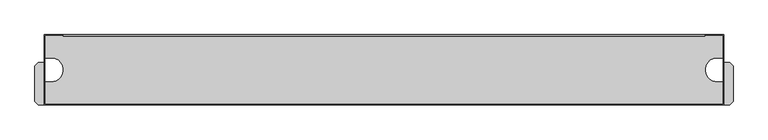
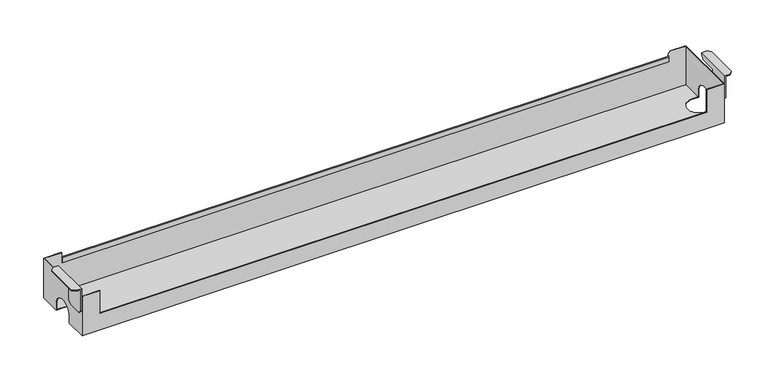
"""IFC4 building model written with IfcOpenShell, lengths in millimetres: furniture geometry, FREZZA_POP AD_Cable tray_for Desk : W1400 mm Structure_ZGBI - Embossed White."""

from ifc_helpers import new_model, si_unit, frame, origin, place, context, project, spatial, polyline, circle_curve, faceted_brep, source, transform, mapped, element, save
from ifc_brep_helpers import plane_surface, cylinder_surface, revolved_surface, advanced_brep


def furniture_406bb710(model_context):
    return source(origin(), model_context, "Body", "SolidModel", [
        faceted_brep([(228.0710678, -203.5, 725.0), (239.0, -203.5, 725.0), (239.0, -115.5, 725.0), (228.0710678, -115.5, 725.0), (221.0, -122.5710678, 725.0), (221.0, -196.4289322, 725.0), (228.0710678, -203.5, 723.0), (221.0, -196.4289322, 723.0), (221.0, -122.5710678, 723.0), (228.0710678, -115.5, 723.0), (237.0, -115.5, 723.0), (237.0, -203.5, 723.0), (237.0, -203.5, 674.0710678), (239.0, -203.5, 674.0710678), (239.0, -115.5, 720.0710678), (237.0, -115.5, 720.0710678), (239.0, -196.4289322, 667.0), (239.0, -165.5710678, 667.0), (239.0, -158.5, 674.0710678), (239.0, -158.5, 713.0), (239.0, -122.5710678, 713.0), (237.0, -165.5710678, 667.0), (237.0, -196.4289322, 667.0), (237.0, -122.5710678, 713.0), (237.0, -158.5, 713.0), (237.0, -158.5, 674.0710678)], [[[0, 1, 2, 3, 4, 5]], [[6, 7, 8, 9, 10, 11]], [[0, 6, 11, 12, 13, 1]], [[0, 5, 7, 6]], [[5, 4, 8, 7]], [[4, 3, 9, 8]], [[9, 3, 2, 14, 15, 10]], [[14, 2, 1, 13, 16, 17, 18, 19, 20]], [[21, 22, 12, 11, 10, 15, 23, 24, 25]], [[17, 16, 22, 21]], [[16, 13, 12, 22]], [[14, 20, 23, 15]], [[20, 19, 24, 23]], [[19, 18, 25, 24]], [[18, 17, 21, 25]]]),
        faceted_brep([(1641.0, -203.5, 725.0), (1651.9289322, -203.5, 725.0), (1659.0, -196.4289322, 725.0), (1659.0, -122.5710678, 725.0), (1651.9289322, -115.5, 725.0), (1641.0, -115.5, 725.0), (1651.9289322, -115.5, 723.0), (1659.0, -122.5710678, 723.0), (1659.0, -196.4289322, 723.0), (1651.9289322, -203.5, 723.0), (1643.0, -203.5, 723.0), (1643.0, -115.5, 723.0), (1641.0, -203.5, 674.0710678), (1643.0, -203.5, 674.0710678), (1643.0, -115.5, 720.0710678), (1641.0, -115.5, 720.0710678), (1641.0, -122.5710678, 713.0), (1641.0, -158.5, 713.0), (1641.0, -158.5, 674.0710678), (1641.0, -165.5710678, 667.0), (1641.0, -196.4289322, 667.0), (1643.0, -165.5710678, 667.0), (1643.0, -158.5, 674.0710678), (1643.0, -158.5, 713.0), (1643.0, -122.5710678, 713.0), (1643.0, -196.4289322, 667.0)], [[[0, 1, 2, 3, 4, 5]], [[6, 7, 8, 9, 10, 11]], [[12, 13, 10, 9, 1, 0]], [[2, 1, 9, 8]], [[3, 2, 8, 7]], [[4, 3, 7, 6]], [[4, 6, 11, 14, 15, 5]], [[12, 0, 5, 15, 16, 17, 18, 19, 20]], [[21, 22, 23, 24, 14, 11, 10, 13, 25]], [[20, 19, 21, 25]], [[12, 20, 25, 13]], [[16, 15, 14, 24]], [[17, 16, 24, 23]], [[18, 17, 23, 22]], [[19, 18, 22, 21]]]),
        advanced_brep(
        [(278.75, -203.5, 707.0), (278.75, -202.5, 707.0), (241.0, -202.5, 707.0), (241.0, -59.5, 707.0), (278.75, -59.5, 707.0), (278.75, -58.5, 707.0), (240.0, -58.5, 707.0), (240.0, -203.5, 707.0), (278.75, -58.5, 655.3463745), (278.962132, -58.5, 655.3463745), (278.962132, -58.5, 695.75), (1601.037868, -58.5, 695.75), (1601.037868, -58.5, 655.3463745), (1601.25, -58.5, 655.3463745), (1601.25, -58.5, 702.0), (1606.25, -58.5, 707.0), (1640.0, -58.5, 707.0), (1640.0, -58.5, 618.05), (1640.0, -58.5, 616.5963745), (241.0, -58.5, 616.5963745), (240.0, -58.5, 616.5963745), (278.75, -59.5, 655.3463745), (241.0, -59.5, 618.05), (1639.0, -59.5, 618.05), (1639.0, -59.5, 707.0), (1606.25, -59.5, 707.0), (1601.25, -59.5, 702.0), (1601.25, -59.5, 655.3463745), (1601.037868, -59.5, 655.3463745), (1601.037868, -59.5, 685.0), (278.962132, -59.5, 685.0), (278.962132, -59.5, 655.3463745), (240.0, -106.1, 616.5963745), (240.0, -106.1, 631.0), (240.0, -155.9, 631.0), (240.0, -155.9, 616.5963745), (240.0, -203.5, 616.5963745), (1640.0, -106.1, 616.5963745), (1626.0, -106.1, 616.5963745), (1626.0, -155.9, 616.5963745), (1640.0, -155.9, 616.5963745), (1640.0, -203.5, 616.5963745), (241.0, -203.5, 616.5963745), (255.0, -155.9, 616.5963745), (255.0, -106.1, 616.5963745), (1639.0, -202.5, 707.0), (1601.25, -202.5, 707.0), (1601.25, -203.5, 707.0), (1640.0, -203.5, 707.0), (1640.0, -155.9, 631.0), (1640.0, -106.1, 631.0), (1640.0, -203.5, 618.05), (1639.0, -106.1, 631.0), (1639.0, -155.9, 631.0), (1639.0, -155.9, 618.05), (1639.0, -202.5, 618.05), (1639.0, -106.1, 618.05), (1601.25, -203.5, 655.3463745), (278.75, -203.5, 655.3463745), (1626.0, -155.9, 618.05), (1626.0, -106.1, 618.05), (278.962132, -61.0, 685.0), (278.962132, -61.0, 695.75), (1601.037868, -61.0, 695.75), (1601.037868, -61.0, 685.0), (278.75, -202.5, 655.3463745), (1601.25, -202.5, 655.3463745), (241.0, -202.5, 618.05), (241.0, -106.1, 618.05), (255.0, -106.1, 618.05), (255.0, -155.9, 618.05), (241.0, -155.9, 618.05), (241.0, -106.1, 631.0), (241.0, -155.9, 631.0)],
        [
            (0, 1),
            (1, 2),
            (2, 3),
            (3, 4),
            (4, 5),
            (5, 6),
            (6, 7),
            (7, 0),
            (5, 8),
            (8, 9),
            (9, 10),
            (10, 11),
            (11, 12),
            (12, 13),
            (13, 14),
            (14, 15),
            (15, 16),
            (16, 17),
            (17, 18),
            (18, 19),
            (19, 20),
            (20, 6),
            (4, 21),
            (21, 8),
            (3, 22),
            (22, 23),
            (23, 24),
            (24, 25),
            (25, 26),
            (26, 27),
            (27, 28),
            (28, 29),
            (29, 30),
            (30, 31),
            (31, 21),
            (20, 32),
            (32, 33),
            (33, 34, circle_curve(frame((240.0, -131.0, 631.0), z_axis=(1.0, 0.0, 0.0), x_axis=(0.0, 1.0, 0.0)), 24.9)),
            (34, 35),
            (35, 36),
            (36, 7),
            (31, 9),
            (27, 13),
            (12, 28),
            (18, 37),
            (37, 38),
            (38, 39, circle_curve(frame((1626.0, -131.0, 616.5963745), z_axis=(0.0, 0.0, 1.0), x_axis=(-1.0, 0.0, 0.0)), 24.9)),
            (39, 40),
            (40, 41),
            (41, 42),
            (42, 36),
            (35, 43),
            (43, 44, circle_curve(frame((255.0, -131.0, 616.5963745), z_axis=(0.0, 0.0, 1.0), x_axis=(-1.0, 0.0, 0.0)), 24.9)),
            (44, 32),
            (15, 25),
            (24, 45),
            (45, 46),
            (46, 47),
            (47, 48),
            (48, 16),
            (26, 14),
            (49, 50, circle_curve(frame((1640.0, -131.0, 631.0), z_axis=(-1.0, 0.0, 0.0), x_axis=(0.0, 1.0, 0.0)), 24.9)),
            (50, 37),
            (48, 51),
            (51, 41),
            (40, 49),
            (52, 53, circle_curve(frame((1639.0, -131.0, 631.0), z_axis=(1.0, 0.0, 0.0), x_axis=(0.0, 1.0, 0.0)), 24.9)),
            (53, 54),
            (54, 55),
            (55, 45),
            (23, 56),
            (56, 52),
            (47, 57),
            (57, 58),
            (58, 0),
            (53, 49),
            (39, 59),
            (59, 54),
            (52, 50),
            (56, 60),
            (60, 38),
            (30, 61),
            (61, 62),
            (62, 10, circle_curve(frame((278.962132, -59.75, 695.75), z_axis=(-1.0, 0.0, 0.0), x_axis=(0.0, 1.0, 0.0)), 1.25)),
            (11, 63, circle_curve(frame((1601.037868, -59.75, 695.75), z_axis=(1.0, 0.0, 0.0), x_axis=(0.0, 1.0, 0.0)), 1.25)),
            (63, 64),
            (64, 29),
            (64, 61),
            (63, 62),
            (58, 65),
            (65, 1),
            (65, 66),
            (66, 46),
            (55, 67),
            (67, 2),
            (57, 66),
            (59, 60, circle_curve(frame((1626.0, -131.0, 618.05), z_axis=(0.0, 0.0, -1.0), x_axis=(-1.0, 0.0, 0.0)), 24.9)),
            (22, 68),
            (68, 69),
            (69, 70, circle_curve(frame((255.0, -131.0, 618.05), z_axis=(0.0, 0.0, -1.0), x_axis=(-1.0, 0.0, 0.0)), 24.9)),
            (70, 71),
            (71, 67),
            (44, 69),
            (68, 72),
            (72, 33),
            (43, 70),
            (34, 73),
            (73, 71),
            (73, 72, circle_curve(frame((241.0, -131.0, 631.0), z_axis=(-1.0, 0.0, 0.0), x_axis=(0.0, 1.0, 0.0)), 24.9)),
        ],
        [
            plane_surface(frame((240.0, -130.5, 707.0), z_axis=(0.0, 0.0, 1.0), x_axis=(0.0, -1.0, 0.0))),
            plane_surface(frame((278.75, -58.5, 707.0), z_axis=(0.0, 1.0, 0.0), x_axis=(0.0, 0.0, -1.0))),
            plane_surface(frame((278.75, -59.5, 707.0), z_axis=(1.0, 0.0, 0.0), x_axis=(0.0, 0.0, -1.0))),
            plane_surface(frame((240.0, -59.5, 707.0), z_axis=(0.0, -1.0, 0.0), x_axis=(0.0, 0.0, -1.0))),
            plane_surface(frame((240.0, -58.5, 707.0), z_axis=(-1.0, 0.0, 0.0), x_axis=(0.0, 0.0, -1.0))),
            plane_surface(frame((278.75, -59.5, 655.3463745), z_axis=(0.0, 0.0, 1.0), x_axis=(1.0, 0.0, 0.0))),
            plane_surface(frame((240.0, -58.5, 616.5963745), z_axis=(0.0, 0.0, -1.0), x_axis=(1.0, 0.0, 0.0))),
            plane_surface(frame((1640.0, -130.5, 707.0), z_axis=(0.0, 0.0, 1.0), x_axis=(0.0, -1.0, 0.0))),
            plane_surface(frame((1601.25, -59.5, 655.3463745), z_axis=(-1.0, 0.0, 0.0), x_axis=(0.0, 0.0, 1.0))),
            plane_surface(frame((1640.0, -58.5, 616.5963745), z_axis=(1.0, 0.0, 0.0), x_axis=(0.0, 0.0, 1.0))),
            plane_surface(frame((1639.0, -58.5, 707.0), z_axis=(-1.0, 0.0, 0.0), x_axis=(0.0, 0.0, -1.0))),
            plane_surface(frame((1639.0, -203.5, 616.5963745), z_axis=(0.0, -1.0, 0.0), x_axis=(1.0, 0.0, 0.0))),
            plane_surface(frame((1639.0, -155.9, 631.0), z_axis=(0.0, 1.0, 0.0), x_axis=(1.0, 0.0, 0.0))),
            revolved_surface(polyline([(1640.0, -106.1, 631.0), (1639.0, -106.1, 631.0)]), (1640.0, -131.0, 631.0), (1.0, 0.0, 0.0)),
            plane_surface(frame((1639.0, -106.1, 616.5963745), z_axis=(0.0, -1.0, 0.0), x_axis=(1.0, 0.0, 0.0))),
            plane_surface(frame((278.962132, -58.5, 707.0), z_axis=(-1.0, 0.0, 0.0), x_axis=(0.0, 0.0, 1.0))),
            plane_surface(frame((1601.037868, -58.5, 707.0), z_axis=(1.0, 0.0, 0.0), x_axis=(0.0, 0.0, 1.0))),
            plane_surface(frame((278.962132, -59.5, 685.0), z_axis=(0.0, 0.0, -1.0), x_axis=(1.0, 0.0, 0.0))),
            plane_surface(frame((278.962132, -61.0, 685.0), z_axis=(0.0, -1.0, 0.0), x_axis=(1.0, 0.0, 0.0))),
            cylinder_surface(frame((278.962132, -59.75, 695.75), z_axis=(-1.0, 0.0, 0.0), x_axis=(0.0, 1.0, 0.0)), 1.25),
            plane_surface(frame((278.75, -203.5, 707.0), z_axis=(1.0, 0.0, 0.0), x_axis=(0.0, 0.0, -1.0))),
            plane_surface(frame((278.75, -202.5, 707.0), z_axis=(0.0, 1.0, 0.0), x_axis=(0.0, 0.0, -1.0))),
            plane_surface(frame((278.75, -203.5, 655.3463745), z_axis=(0.0, 0.0, 1.0), x_axis=(1.0, 0.0, 0.0))),
            plane_surface(frame((1601.25, -203.5, 655.3463745), z_axis=(-1.0, 0.0, 0.0), x_axis=(0.0, 0.0, 1.0))),
            plane_surface(frame((1640.0, -203.5, 618.05), z_axis=(0.0, 0.0, 1.0), x_axis=(0.0, 1.0, 0.0))),
            revolved_surface(polyline([(1601.1, -131.0, 616.5963745), (1601.1, -131.0, 618.05)]), (1626.0, -131.0, 616.5963745), (0.0, 0.0, -1.0)),
            plane_surface(frame((240.0, -106.1, 618.05), z_axis=(0.0, -1.0, 0.0), x_axis=(0.0, 0.0, -1.0))),
            revolved_surface(polyline([(230.1, -131.0, 616.5963745), (230.1, -131.0, 618.05)]), (255.0, -131.0, 616.5963745), (0.0, 0.0, -1.0)),
            plane_surface(frame((255.0, -155.9, 618.05), z_axis=(0.0, 1.0, 0.0), x_axis=(0.0, 0.0, -1.0))),
            plane_surface(frame((241.0, -203.5, 707.0), z_axis=(1.0, 0.0, 0.0), x_axis=(0.0, -1.0, 0.0))),
            revolved_surface(polyline([(240.0, -106.1, 631.0), (241.0, -106.1, 631.0)]), (240.0, -131.0, 631.0), (-1.0, 0.0, 0.0)),
            plane_surface(frame((1606.25, -58.5, 707.0), z_axis=(-0.7071067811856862, 0.0, 0.707106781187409), x_axis=(0.0, -1.0, 0.0))),
        ],
        [
            (0, [[1, 2, 3, 4, 5, 6, 7, 8]]),
            (1, [[-6, 9, 10, 11, 12, 13, 14, 15, 16, 17, 18, 19, 20, 21, 22]]),
            (2, [[-5, 23, 24, -9]]),
            (3, [[-23, -4, 25, 26, 27, 28, 29, 30, 31, 32, 33, 34, 35]]),
            (4, [[-7, -22, 36, 37, 38, 39, 40, 41]]),
            (5, [[-24, -35, 42, -10]]),
            (5, [[43, -14, 44, -31]]),
            (6, [[45, 46, 47, 48, 49, 50, 51, -40, 52, 53, 54, -36, -21, -20]]),
            (7, [[55, -28, 56, 57, 58, 59, 60, -17]]),
            (8, [[-43, -30, 61, -15]]),
            (9, [[62, 63, -45, -19, -18, -60, 64, 65, -49, 66]]),
            (10, [[67, 68, 69, 70, -56, -27, 71, 72]]),
            (11, [[73, 74, 75, -8, -41, -51, -50, -65, -64, -59]]),
            (12, [[76, -66, -48, 77, 78, -68]]),
            (13, [[-67, 79, -62, -76]]),
            (14, [[-79, -72, 80, 81, -46, -63]]),
            (15, [[-34, 82, 83, 84, -11, -42]]),
            (16, [[-13, 85, 86, 87, -32, -44]]),
            (17, [[-82, -33, -87, 88]]),
            (18, [[-83, -88, -86, 89]]),
            (19, [[-84, -89, -85, -12]]),
            (20, [[-1, -75, 90, 91]]),
            (21, [[-91, 92, 93, -57, -70, 94, 95, -2]]),
            (22, [[-74, 96, -92, -90]]),
            (23, [[-73, -58, -93, -96]]),
            (24, [[97, -80, -71, -26, 98, 99, 100, 101, 102, -94, -69, -78]]),
            (25, [[-97, -77, -47, -81]]),
            (26, [[-37, -54, 103, -99, 104, 105]]),
            (27, [[-100, -103, -53, 106]]),
            (28, [[-106, -52, -39, 107, 108, -101]]),
            (29, [[109, -104, -98, -25, -3, -95, -102, -108]]),
            (30, [[-109, -107, -38, -105]]),
            (31, [[-16, -61, -29, -55]]),
        ],
    ),
    ])


if __name__ == "__main__":
    model = new_model("IFC4")
    model_context = context("Model", 3, world=origin())
    ifc_project = project(units=[si_unit("LENGTHUNIT", "METRE", prefix="MILLI")], contexts=[model_context])
    site = spatial("IfcSite", under=ifc_project)
    building = spatial("IfcBuilding", under=site)
    placement = place(None, origin())
    furniture_shape = furniture_406bb710(model_context)
    element("IfcFurniture", 1, ObjectType="FREZZA_POP AD_Cable tray_for Desk : W1400 mm Structure_ZGBI - Embossed White", at=placement, inside=building, context=model_context, shape_type="MappedRepresentation", body=[
        mapped(furniture_shape, transform((0.0, 0.0, 0.0), x_axis=(1.0, 0.0, 0.0), y_axis=(0.0, 1.0, 0.0), z_axis=(0.0, 0.0, 1.0))),
    ])
    save(model, "model.ifc")
